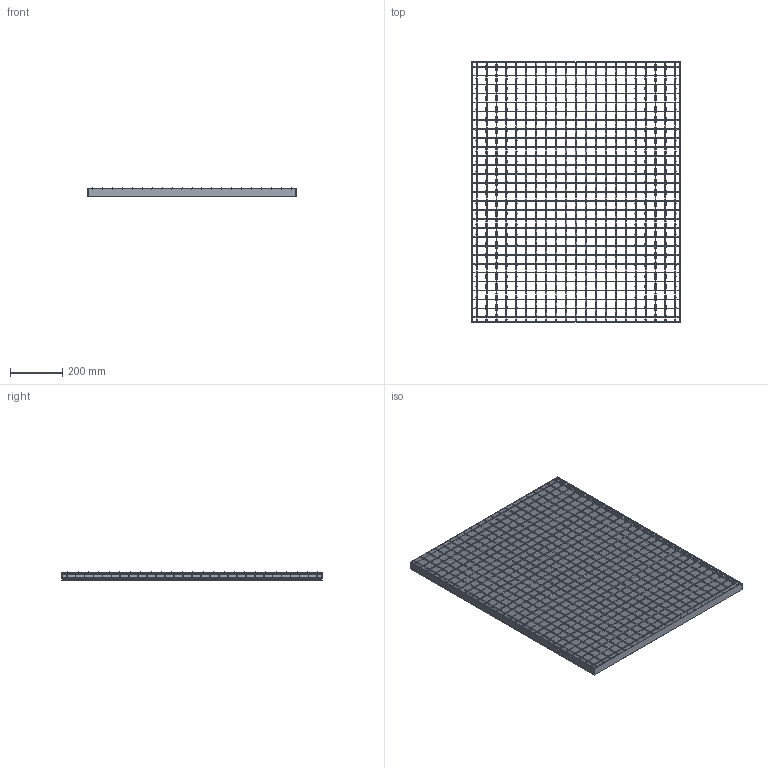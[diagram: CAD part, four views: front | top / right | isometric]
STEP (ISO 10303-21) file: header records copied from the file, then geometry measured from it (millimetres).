
FILE_DESCRIPTION(/* description */ ('STEP AP242','CAx-IF Rec.Pracs.---Representation and Presentation of Product Manufacturing Information (PMI)---4.0---2014-10-13','CAx-IF Rec.Pracs.---3D Tessellated Geometry---0.4---2014-09-14','2;1'),/* implementation_level */ '2;1');
FILE_NAME(/* name */ 'Lichtgitter_Forge_welded_gratings SP 330-34_38-3-1-1-800-1000_(350_1_0)',/* time_stamp */ '2026-04-23T13:49:20+02:00',/* author */ ('License CC BY-ND 4.0'),/* organization */ ('CADENAS'),/* preprocessor_version */ 'ST-DEVELOPER v20',/* originating_system */ 'PARTsolutions',/* authorisation */ ' ');
FILE_SCHEMA (('AP242_MANAGED_MODEL_BASED_3D_ENGINEERING_MIM_LF { 1 0 10303 442 1 1 4 }'));
Length unit declared in the file: millimetre
Products named in the file (5): Lichtgitter_Forge_welded_gratings SP 330-34/38-3-1-1-800-1000_(350_1_
0); Lichtgitter SP 330-34/38-3_(350_1_2_800_1000_Schweisspressroste)_VERT
ICAL_SIDES; Lichtgitter SP 330-34/38-3_(350_1_2_800_1000_Schweisspressroste)_HORI
ZONTAL_C; Lichtgitter SP 330-34/38-3_(350_1_2_800_1000_Schweisspressroste)_HORI
ZONTAL_SIDES; Lichtgitter SP 3.46530-34/38-3.465_(350_1_2_800_1000_Schweisspressros
te)_VERTICAL_C
Assembly tree (54 placements, depth 2):
  Lichtgitter_Forge_welded_gratings SP 330-34/38-3-1-1-800-1000_(350_1_
0)
    Lichtgitter SP 330-34/38-3_(350_1_2_800_1000_Schweisspressroste)_VERT
ICAL_SIDES  x2
    Lichtgitter SP 330-34/38-3_(350_1_2_800_1000_Schweisspressroste)_HORI
ZONTAL_C  x29
    Lichtgitter SP 330-34/38-3_(350_1_2_800_1000_Schweisspressroste)_HORI
ZONTAL_SIDES  x2
    Lichtgitter SP 3.46530-34/38-3.465_(350_1_2_800_1000_Schweisspressros
te)_VERTICAL_C  x21
Bounding box: 800 x 1000 x 30.72 mm (x, y, z)
Volume: 2585928.1 mm3; surface area: 2036729.1 mm2
Topology: 54 solids, 54 shells, 5682 faces, 12606 edges, 7032 vertices
Faces by surface type: bspline 4200, plane 857, cylinder 625
Entity records: 8479 total; most frequent: CARTESIAN_POINT 2679, ORIENTED_EDGE 1204, DIRECTION 914, EDGE_CURVE 602, LINE 540, VECTOR 540, VERTEX_POINT 336, EDGE_LOOP 274
